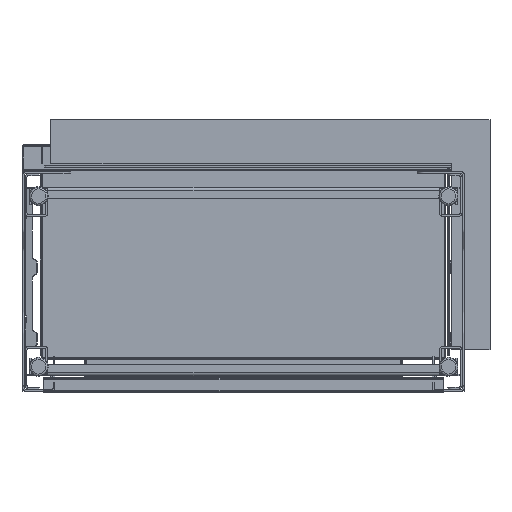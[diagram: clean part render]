
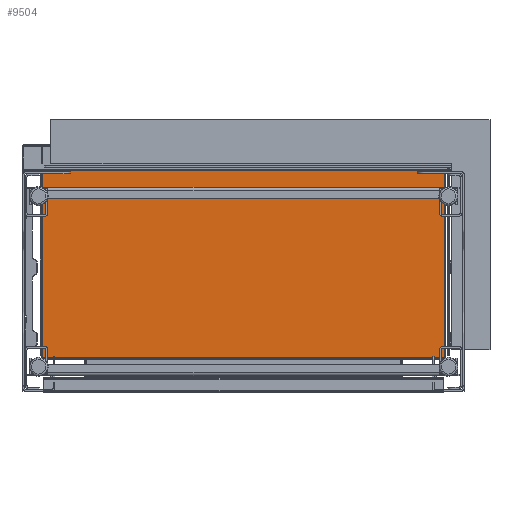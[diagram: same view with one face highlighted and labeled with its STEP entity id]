
A CAD part, front view. The second image highlights one B-rep face of the part: STEP entity #9504.
In plain terms, the highlighted planar face has unit normal (0, -1, 0).
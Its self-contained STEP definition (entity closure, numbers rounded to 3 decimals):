
#1352 = VECTOR ( 'NONE', #66987, 1000. ) ;
#4855 = DIRECTION ( 'NONE',  ( -1., 0., 0. ) ) ;
#5772 = CARTESIAN_POINT ( 'NONE',  ( 424.2, -87.8, -1.293 ) ) ;
#6343 = VECTOR ( 'NONE', #93263, 1000. ) ;
#9504 = ADVANCED_FACE ( 'Defeatured_43_1', ( #37988 ), #30560, .T. ) ;
#11490 = ORIENTED_EDGE ( 'NONE', *, *, #47799, .T. ) ;
#13300 = CARTESIAN_POINT ( 'NONE',  ( 0., -87.8, 196.5 ) ) ;
#14577 = CARTESIAN_POINT ( 'NONE',  ( -424.293, -87.8, -1.2 ) ) ;
#15636 = EDGE_LOOP ( 'NONE', ( #77132, #73409, #54182, #11490 ) ) ;
#24879 = VERTEX_POINT ( 'NONE', #41955 ) ;
#28026 = CARTESIAN_POINT ( 'NONE',  ( 424.2, -87.8, -1.2 ) ) ;
#30560 = PLANE ( 'NONE',  #63330 ) ;
#32573 = CARTESIAN_POINT ( 'NONE',  ( 424.293, -87.8, 394.2 ) ) ;
#36291 = LINE ( 'NONE', #71494, #6343 ) ;
#36888 = LINE ( 'NONE', #5772, #1352 ) ;
#37335 = LINE ( 'NONE', #14577, #58870 ) ;
#37988 = FACE_OUTER_BOUND ( 'NONE', #15636, .T. ) ;
#41955 = CARTESIAN_POINT ( 'NONE',  ( -424.2, -87.8, 394.2 ) ) ;
#42181 = VERTEX_POINT ( 'NONE', #53171 ) ;
#46891 = LINE ( 'NONE', #32573, #78381 ) ;
#47799 = EDGE_CURVE ( 'Defeatured_43_1+Defeatured_43_28+Defeatured_43_32+Defeatured_43_5', #24879, #42181, #36291, .T. ) ;
#52781 = DIRECTION ( 'NONE',  ( 0., -1., 0. ) ) ;
#52883 = CARTESIAN_POINT ( 'NONE',  ( 424.2, -87.8, 394.2 ) ) ;
#53171 = CARTESIAN_POINT ( 'NONE',  ( -424.2, -87.8, -1.2 ) ) ;
#54182 = ORIENTED_EDGE ( 'NONE', *, *, #74579, .T. ) ;
#57702 = VERTEX_POINT ( 'NONE', #28026 ) ;
#58870 = VECTOR ( 'NONE', #79672, 1000. ) ;
#63330 = AXIS2_PLACEMENT_3D ( 'NONE', #13300, #52781, #82939 ) ;
#66987 = DIRECTION ( 'NONE',  ( 0., 0., 1. ) ) ;
#71494 = CARTESIAN_POINT ( 'NONE',  ( -424.2, -87.8, 394.293 ) ) ;
#73409 = ORIENTED_EDGE ( 'NONE', *, *, #84858, .T. ) ;
#74579 = EDGE_CURVE ( 'Defeatured_43_1+Defeatured_43_32+Defeatured_43_19+Defeatured_43_28', #84572, #24879, #46891, .T. ) ;
#77132 = ORIENTED_EDGE ( 'NONE', *, *, #78864, .T. ) ;
#78381 = VECTOR ( 'NONE', #4855, 1000. ) ;
#78864 = EDGE_CURVE ( 'Defeatured_43_1+Defeatured_43_5+Defeatured_43_28+Defeatured_43_19', #42181, #57702, #37335, .T. ) ;
#79672 = DIRECTION ( 'NONE',  ( 1., 0., 0. ) ) ;
#82939 = DIRECTION ( 'NONE',  ( 0., 0., -1. ) ) ;
#84572 = VERTEX_POINT ( 'NONE', #52883 ) ;
#84858 = EDGE_CURVE ( 'Defeatured_43_1+Defeatured_43_19+Defeatured_43_5+Defeatured_43_32', #57702, #84572, #36888, .T. ) ;
#93263 = DIRECTION ( 'NONE',  ( 0., 0., -1. ) ) ;
